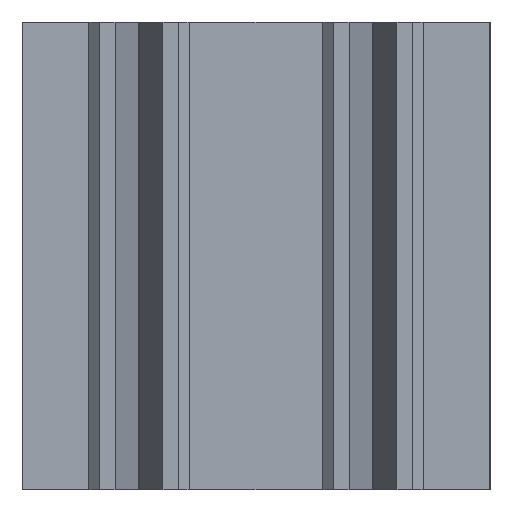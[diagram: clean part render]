
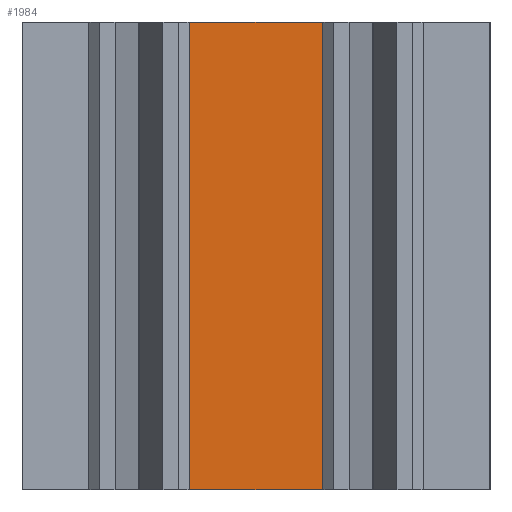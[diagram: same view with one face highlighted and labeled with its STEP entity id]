
A CAD part, front view. The second image highlights one B-rep face of the part: STEP entity #1984.
In plain terms, the highlighted planar face has unit normal (0, -1, 0).
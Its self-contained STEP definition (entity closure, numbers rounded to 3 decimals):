
#114=FACE_OUTER_BOUND('',#220,.T.);
#220=EDGE_LOOP('',(#1679,#1680,#1681,#1682));
#341=LINE('',#2787,#617);
#473=LINE('',#3052,#749);
#492=LINE('',#3091,#768);
#493=LINE('',#3092,#769);
#617=VECTOR('',#2277,10.);
#749=VECTOR('',#2491,10.);
#768=VECTOR('',#2530,10.);
#769=VECTOR('',#2531,10.);
#859=VERTEX_POINT('',#2783);
#860=VERTEX_POINT('',#2785);
#952=VERTEX_POINT('',#3050);
#962=VERTEX_POINT('',#3090);
#1077=EDGE_CURVE('',#859,#860,#341,.T.);
#1209=EDGE_CURVE('',#952,#860,#473,.T.);
#1228=EDGE_CURVE('',#962,#859,#492,.T.);
#1229=EDGE_CURVE('',#962,#952,#493,.T.);
#1679=ORIENTED_EDGE('',*,*,#1228,.T.);
#1680=ORIENTED_EDGE('',*,*,#1077,.T.);
#1681=ORIENTED_EDGE('',*,*,#1209,.F.);
#1682=ORIENTED_EDGE('',*,*,#1229,.F.);
#1886=PLANE('',#2084);
#1984=ADVANCED_FACE('',(#114),#1886,.T.);
#2084=AXIS2_PLACEMENT_3D('',#3089,#2528,#2529);
#2277=DIRECTION('',(0.,0.,1.));
#2491=DIRECTION('',(1.,0.,0.));
#2528=DIRECTION('center_axis',(0.,-1.,0.));
#2529=DIRECTION('ref_axis',(1.,0.,0.));
#2530=DIRECTION('',(1.,0.,0.));
#2531=DIRECTION('',(0.,0.,1.));
#2783=CARTESIAN_POINT('',(-2.05,-5.5,0.));
#2785=CARTESIAN_POINT('',(-2.05,-5.5,20.));
#2787=CARTESIAN_POINT('',(-2.05,-5.5,0.));
#3050=CARTESIAN_POINT('',(-7.95,-5.5,20.));
#3052=CARTESIAN_POINT('',(-8.3,-5.5,20.));
#3089=CARTESIAN_POINT('Origin',(-7.95,-5.5,0.));
#3090=CARTESIAN_POINT('',(-7.95,-5.5,0.));
#3091=CARTESIAN_POINT('',(-8.3,-5.5,0.));
#3092=CARTESIAN_POINT('',(-7.95,-5.5,0.));
